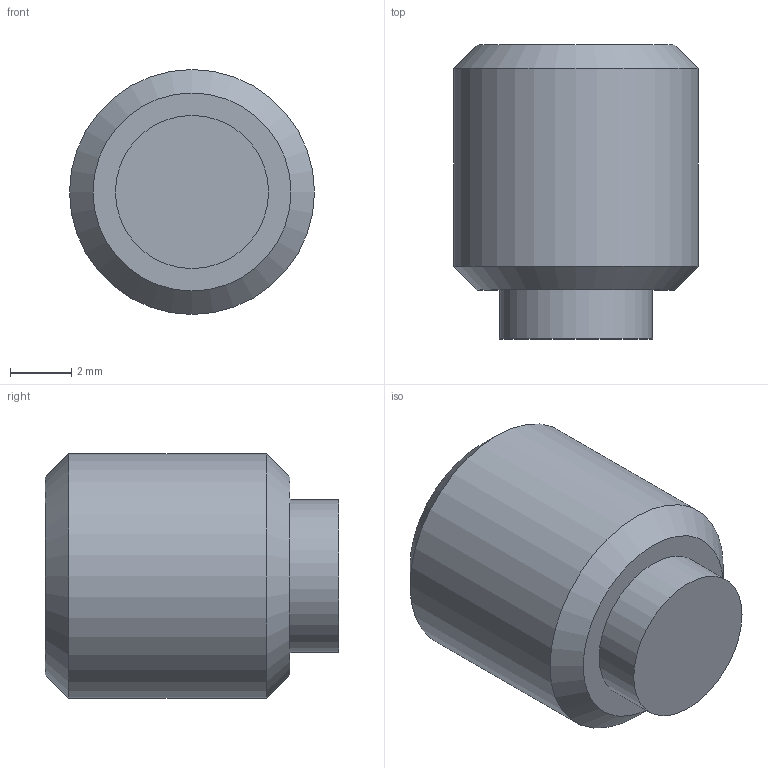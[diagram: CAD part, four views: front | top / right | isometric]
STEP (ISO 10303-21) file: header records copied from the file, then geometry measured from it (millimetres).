
FILE_DESCRIPTION( ( 'STEP AP203' ), '1' );
FILE_NAME( 'C:/Temp/Ganter_Step_05_03_2020/data/3_2/gn913_3/Grub screw GN 913.3-M8-8-KU.stp', '2020-03-13T05:35:37', ( 'License CC BY-ND 4.0' ), ( 'CADENAS' ), ' ', 'PARTsolutions', ' ' );
FILE_SCHEMA( ( 'CONFIG_CONTROL_DESIGN' ) );
Length unit declared in the file: millimetre
Products named in the file (1): _Grub screw GN 913.3-M8-8-KU
Bounding box: 8 x 9.6 x 8 mm (x, y, z)
Volume: 350.4 mm3; surface area: 371.9 mm2
Topology: 1 solids, 1 shells, 14 faces, 28 edges, 18 vertices
Faces by surface type: plane 10, cylinder 2, cone 2
Full cylindrical faces by diameter (mm): 5 x1, 8 x1
Entity records: 386 total; most frequent: DIRECTION 60, CARTESIAN_POINT 57, ORIENTED_EDGE 48, EDGE_CURVE 24, AXIS2_PLACEMENT_3D 21, EDGE_LOOP 20, VERTEX_POINT 18, LINE 18
